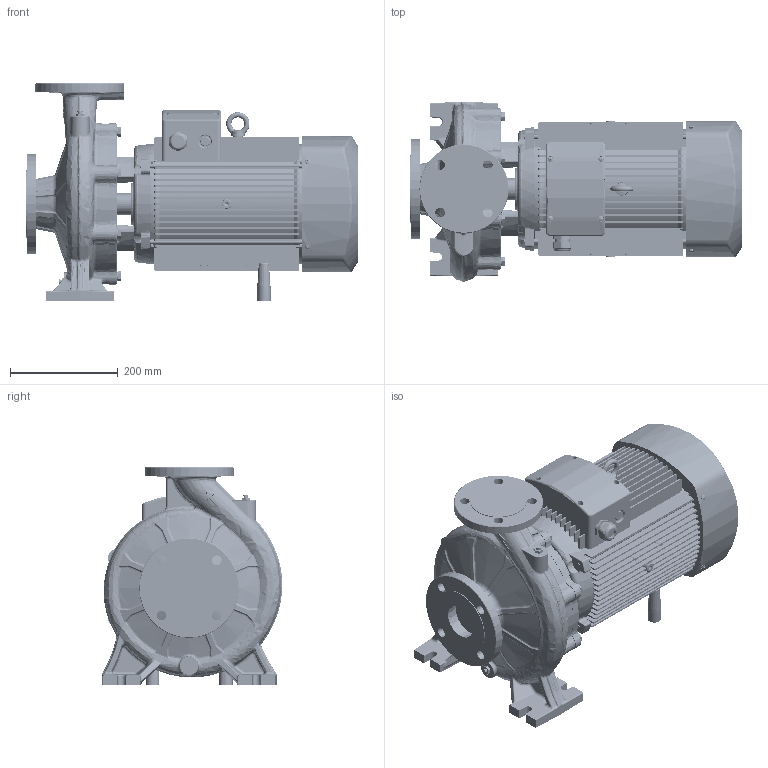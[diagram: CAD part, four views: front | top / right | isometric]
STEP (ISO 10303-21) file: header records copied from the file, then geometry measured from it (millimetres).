
FILE_DESCRIPTION (( 'STEP AP203' ), '1' );
FILE_NAME ('TST50-250-15 安装尺寸图.STEP', '2026-04-28T09:10:04', ( '微软用户' ), ( '微软中国' ), 'SwSTEP 2.0', 'SolidWorks 2020', '' );
FILE_SCHEMA (( 'CONFIG_CONTROL_DESIGN' ));
Products named in the file (1): TST50-250-15 假蚾喜渡芞
Bounding box: 615.5 x 334.65 x 405.58 mm (x, y, z)
Volume: 27797165.5 mm3; surface area: 1609369.5 mm2
Topology: 1 solids, 1 shells, 4482 faces, 11058 edges, 6921 vertices
Faces by surface type: plane 1441, cylinder 1323, bspline 922, torus 395, cone 350, sphere 51
Entity records: 175362 total; most frequent: CARTESIAN_POINT 75301, ORIENTED_EDGE 22056, DIRECTION 19625, EDGE_CURVE 11028, AXIS2_PLACEMENT_3D 8024, VERTEX_POINT 6921, EDGE_LOOP 4921, FACE_OUTER_BOUND 4482
